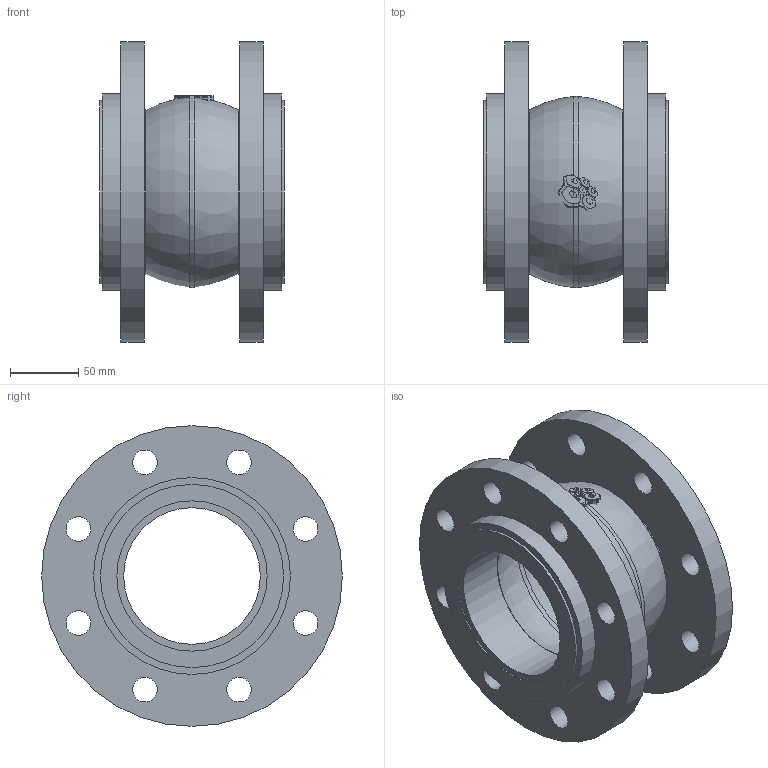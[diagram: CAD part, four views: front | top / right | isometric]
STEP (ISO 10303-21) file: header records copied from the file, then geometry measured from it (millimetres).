
FILE_DESCRIPTION(('STEP AP203'), '1');
FILE_NAME('3D_500_501-100-EPDM-FF', '', ('UNSPECIFIED'), ('UNSPECIFIED'), 'C3D Converter', 'C3D Toolkit', '');
FILE_SCHEMA(('CONFIG_CONTROL_DESIGN'));
Length unit declared in the file: millimetre
Bounding box: 135 x 220 x 220 mm (x, y, z)
Volume: 1489365.9 mm3; surface area: 237775.8 mm2
Topology: 9 solids, 9 shells, 877 faces, 2573 edges, 1722 vertices
Faces by surface type: plane 839, cylinder 28, torus 10
Full cylindrical faces by diameter (mm): 18 x16, 100 x2, 110 x2, 120 x2, 134 x2, 144 x2, 220 x2
Entity records: 35624 total; most frequent: CARTESIAN_POINT 5135, ORIENTED_EDGE 5070, DIRECTION 4387, EDGE_CURVE 2535, LINE 2439, VECTOR 2439, VERTEX_POINT 1722, AXIS2_PLACEMENT_3D 974
